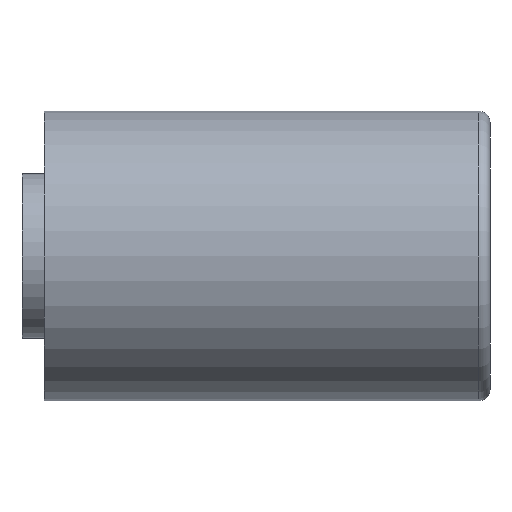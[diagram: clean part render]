
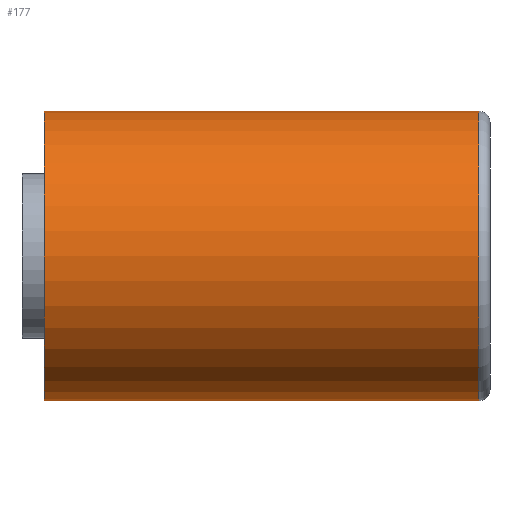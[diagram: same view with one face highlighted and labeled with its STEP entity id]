
A CAD part, front view. The second image highlights one B-rep face of the part: STEP entity #177.
In plain terms, the highlighted cylindrical face has radius 1.3 mm (diameter 2.6 mm), a full revolution.
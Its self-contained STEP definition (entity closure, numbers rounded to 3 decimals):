
#177 = ADVANCED_FACE( '', ( #218, #219 ), #220, .T. );
#218 = FACE_OUTER_BOUND( '', #279, .T. );
#219 = FACE_OUTER_BOUND( '', #280, .T. );
#220 = CYLINDRICAL_SURFACE( '', #281, 1.3 );
#279 = EDGE_LOOP( '', ( #355 ) );
#280 = EDGE_LOOP( '', ( #356 ) );
#281 = AXIS2_PLACEMENT_3D( '', #357, #358, #359 );
#355 = ORIENTED_EDGE( '', *, *, #455, .T. );
#356 = ORIENTED_EDGE( '', *, *, #462, .F. );
#357 = CARTESIAN_POINT( '', ( 3.507, 0., 0. ) );
#358 = DIRECTION( '', ( -1., 0., 0. ) );
#359 = DIRECTION( '', ( 0., 0., -1. ) );
#455 = EDGE_CURVE( '', #491, #491, #492, .T. );
#462 = EDGE_CURVE( '', #505, #505, #506, .T. );
#491 = VERTEX_POINT( '', #554 );
#492 = CIRCLE( '', #555, 1.3 );
#505 = VERTEX_POINT( '', #568 );
#506 = CIRCLE( '', #569, 1.3 );
#554 = CARTESIAN_POINT( '', ( -0.493, 0., -1.3 ) );
#555 = AXIS2_PLACEMENT_3D( '', #637, #638, #639 );
#568 = CARTESIAN_POINT( '', ( 3.407, 0., -1.3 ) );
#569 = AXIS2_PLACEMENT_3D( '', #658, #659, #660 );
#637 = CARTESIAN_POINT( '', ( -0.493, 0., 0. ) );
#638 = DIRECTION( '', ( 1., 0., 0. ) );
#639 = DIRECTION( '', ( 0., 0., -1. ) );
#658 = CARTESIAN_POINT( '', ( 3.407, 0., 0. ) );
#659 = DIRECTION( '', ( 1., 0., 0. ) );
#660 = DIRECTION( '', ( 0., 0., -1. ) );
